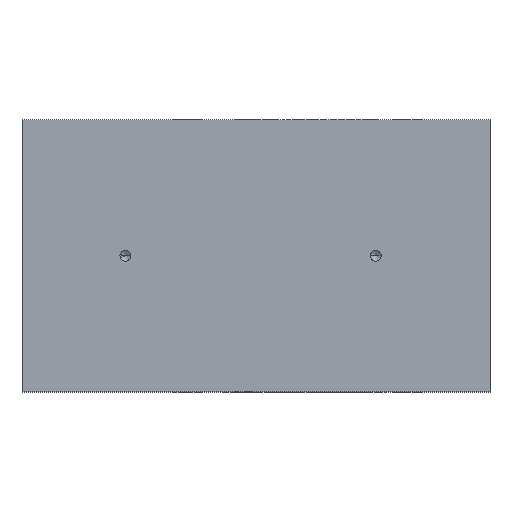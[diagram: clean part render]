
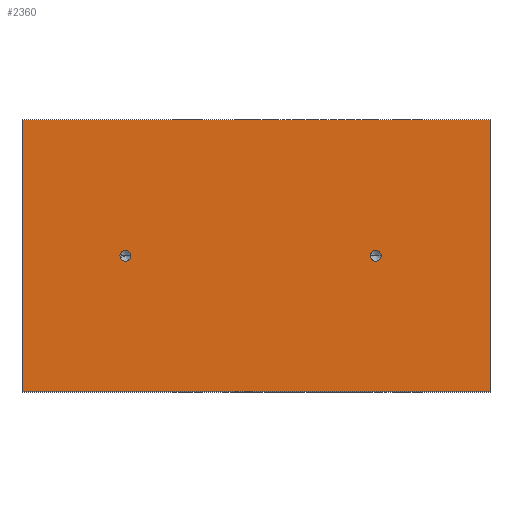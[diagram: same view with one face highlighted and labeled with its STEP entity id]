
A CAD part, top view. The second image highlights one B-rep face of the part: STEP entity #2360.
In plain terms, the highlighted planar face has unit normal (0, 0, 1).
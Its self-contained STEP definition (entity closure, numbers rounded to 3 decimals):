
#46=DIRECTION('',(0.,-1.,0.));
#47=VECTOR('',#46,50.);
#48=CARTESIAN_POINT('',(0.,50.,0.));
#49=LINE('',#48,#47);
#69=DIRECTION('',(1.,0.,0.));
#70=VECTOR('',#69,86.);
#71=CARTESIAN_POINT('',(0.,0.,0.));
#72=LINE('',#71,#70);
#220=DIRECTION('',(1.,0.,0.));
#221=VECTOR('',#220,86.);
#222=CARTESIAN_POINT('',(0.,50.,0.));
#223=LINE('',#222,#221);
#227=CARTESIAN_POINT('',(19.,25.,0.));
#228=DIRECTION('',(0.,0.,1.));
#229=DIRECTION('',(-1.,0.,0.));
#230=AXIS2_PLACEMENT_3D('',#227,#228,#229);
#235=CARTESIAN_POINT('',(19.,25.,0.));
#236=DIRECTION('',(0.,0.,1.));
#237=DIRECTION('',(1.,0.,0.));
#238=AXIS2_PLACEMENT_3D('',#235,#236,#237);
#243=CARTESIAN_POINT('',(65.,25.,0.));
#244=DIRECTION('',(0.,0.,1.));
#245=DIRECTION('',(-1.,0.,0.));
#246=AXIS2_PLACEMENT_3D('',#243,#244,#245);
#251=CARTESIAN_POINT('',(65.,25.,0.));
#252=DIRECTION('',(0.,0.,1.));
#253=DIRECTION('',(1.,0.,0.));
#254=AXIS2_PLACEMENT_3D('',#251,#252,#253);
#424=DIRECTION('',(0.,-1.,0.));
#425=VECTOR('',#424,50.);
#426=CARTESIAN_POINT('',(86.,50.,0.));
#427=LINE('',#426,#425);
#1992=CARTESIAN_POINT('',(0.,0.,0.));
#1994=VERTEX_POINT('',#1992);
#1998=CARTESIAN_POINT('',(0.,50.,0.));
#1999=VERTEX_POINT('',#1998);
#2000=CARTESIAN_POINT('',(86.,0.,0.));
#2002=VERTEX_POINT('',#2000);
#2006=CARTESIAN_POINT('',(86.,50.,0.));
#2007=VERTEX_POINT('',#2006);
#2098=CARTESIAN_POINT('',(18.,25.,0.));
#2099=CARTESIAN_POINT('',(20.,25.,0.));
#2100=VERTEX_POINT('',#2098);
#2101=VERTEX_POINT('',#2099);
#2108=CARTESIAN_POINT('',(64.,25.,0.));
#2109=CARTESIAN_POINT('',(66.,25.,0.));
#2110=VERTEX_POINT('',#2108);
#2111=VERTEX_POINT('',#2109);
#2335=CARTESIAN_POINT('',(0.,50.,0.));
#2336=DIRECTION('',(0.,0.,1.));
#2337=DIRECTION('',(0.,-1.,0.));
#2338=AXIS2_PLACEMENT_3D('',#2335,#2336,#2337);
#2339=PLANE('',#2338);
#2340=ORIENTED_EDGE('',*,*,#2231,.F.);
#2342=ORIENTED_EDGE('',*,*,#2341,.T.);
#2344=ORIENTED_EDGE('',*,*,#2343,.T.);
#2345=ORIENTED_EDGE('',*,*,#2260,.F.);
#2346=EDGE_LOOP('',(#2340,#2342,#2344,#2345));
#2347=FACE_OUTER_BOUND('',#2346,.F.);
#2349=ORIENTED_EDGE('',*,*,#2348,.T.);
#2351=ORIENTED_EDGE('',*,*,#2350,.T.);
#2352=EDGE_LOOP('',(#2349,#2351));
#2353=FACE_BOUND('',#2352,.F.);
#2355=ORIENTED_EDGE('',*,*,#2354,.T.);
#2357=ORIENTED_EDGE('',*,*,#2356,.T.);
#2358=EDGE_LOOP('',(#2355,#2357));
#2359=FACE_BOUND('',#2358,.F.);
#231=CIRCLE('',#230,1.);
#239=CIRCLE('',#238,1.);
#247=CIRCLE('',#246,1.);
#255=CIRCLE('',#254,1.);
#2231=EDGE_CURVE('',#1999,#1994,#49,.T.);
#2260=EDGE_CURVE('',#1994,#2002,#72,.T.);
#2341=EDGE_CURVE('',#1999,#2007,#223,.T.);
#2343=EDGE_CURVE('',#2007,#2002,#427,.T.);
#2348=EDGE_CURVE('',#2100,#2101,#231,.T.);
#2350=EDGE_CURVE('',#2101,#2100,#239,.T.);
#2354=EDGE_CURVE('',#2110,#2111,#247,.T.);
#2356=EDGE_CURVE('',#2111,#2110,#255,.T.);
#2360=ADVANCED_FACE('',(#2347,#2353,#2359),#2339,.T.);
